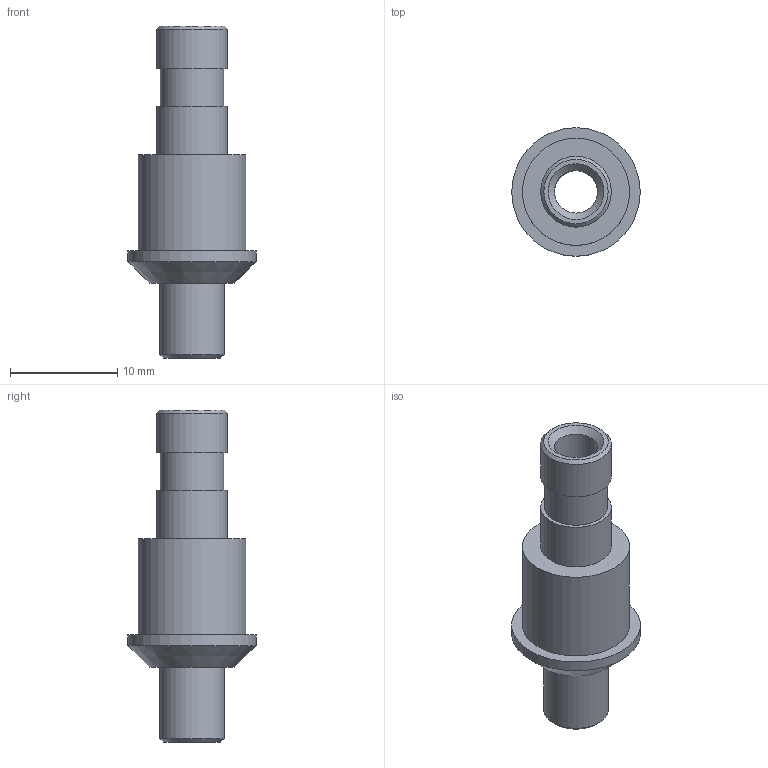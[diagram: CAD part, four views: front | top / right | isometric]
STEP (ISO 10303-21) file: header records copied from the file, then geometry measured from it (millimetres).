
FILE_DESCRIPTION((''),'2;1');
FILE_NAME('C:\Documents and Settings\mika1\Mes documents\pulverisation\MarcheLully\NewBuse\CorpsBuse-1.stp','2016-07-28T21:23:42',('mika1'),(''),'Autodesk Inventor 2008','Autodesk Inventor 2008','');
FILE_SCHEMA(('AUTOMOTIVE_DESIGN { 1 0 10303 214 1 1 1 1 }'));
Length unit declared in the file: millimetre
Products named in the file (1): CorpsBuse-1
Bounding box: 12 x 12 x 31 mm (x, y, z)
Volume: 1169.8 mm3; surface area: 1312.8 mm2
Topology: 1 solids, 1 shells, 18 faces, 30 edges, 19 vertices
Faces by surface type: plane 7, cylinder 7, cone 4
Full cylindrical faces by diameter (mm): 4 x1, 5.9 x1, 6 x1, 6.6 x2, 10 x1, 12 x1
Entity records: 394 total; most frequent: DIRECTION 74, CARTESIAN_POINT 55, AXIS2_PLACEMENT_3D 37, ORIENTED_EDGE 36, EDGE_LOOP 36, VERTEX_POINT 18, CIRCLE 18, EDGE_CURVE 18
